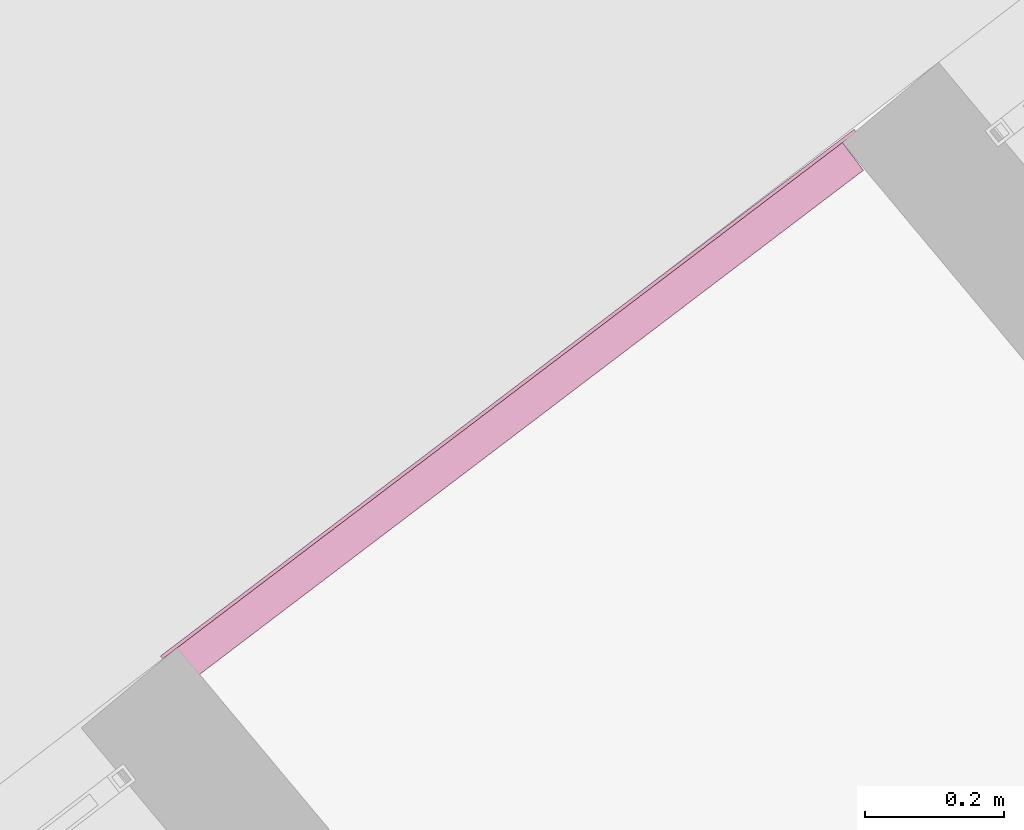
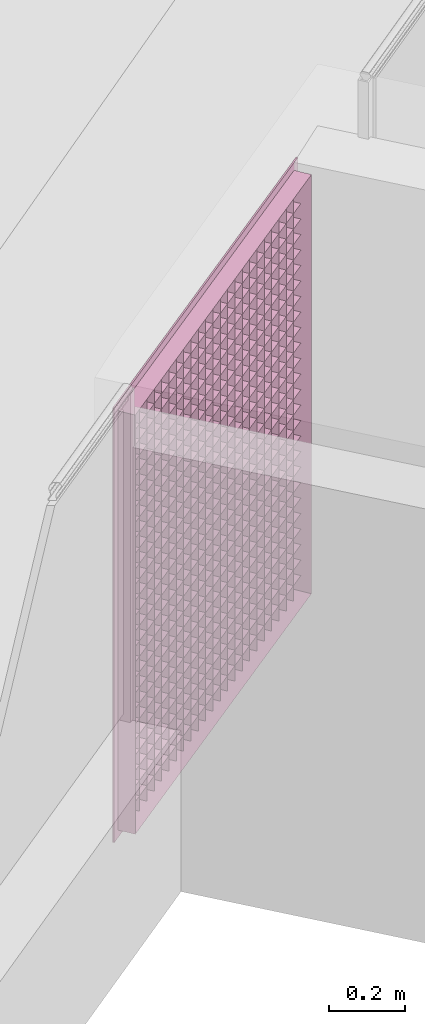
# One storey, part 74 of 75: 1 furniture element.
"""IFC4 building model written with IfcOpenShell, lengths in metres."""

import ifcopenshell
import ifcopenshell.guid

model = None  # the IFC model being written
_history = None  # IfcOwnerHistory: only IFC2X3 demands one
_inside = {}  # id of a spatial element -> (the spatial element, [elements in it])
_under = {}  # id of a project, library or spatial element -> (it, [spatial elements below it])
_declared = {}  # id of a project -> (the project, [libraries it declares])
_typed = {}  # id of a type object -> (the type object, [elements of that type])
_made_of = {}  # id of a material, layer set ... -> (it, [elements and type objects made of it])


def new_model(schema):
    """Start an empty IFC model of exactly this schema.

    Asked for "IFC4X3", IfcOpenShell would pick the latest addendum, in which some entities
    have other attributes; the version numbers below select the first issue.
    IFC2X3 requires an IfcOwnerHistory on every rooted entity: one is made here for all.
    """
    global model, _history
    if schema == "IFC4X3":
        model = ifcopenshell.file(schema_version=(4, 3, 0, 0))
    else:
        model = ifcopenshell.file(schema=schema)
    _inside.clear()
    _under.clear()
    _declared.clear()
    _typed.clear()
    _made_of.clear()
    _history = None
    if model.schema == "IFC2X3":
        org = make("IfcOrganization", Name="unknown")
        user = make(
            "IfcPersonAndOrganization",
            ThePerson=make("IfcPerson", FamilyName="unknown"),
            TheOrganization=org,
        )
        app = make(
            "IfcApplication",
            ApplicationDeveloper=org,
            Version="unknown",
            ApplicationFullName="unknown",
            ApplicationIdentifier="unknown",
        )
        _history = make(
            "IfcOwnerHistory",
            OwningUser=user,
            OwningApplication=app,
            ChangeAction="ADDED",
            CreationDate=0,
        )
    return model


def make(cls, **values):
    """One entity of the class cls with the attributes given. An attribute that is None is left unset."""
    return model.create_entity(
        cls, **{name: value for name, value in values.items() if value is not None}
    )


def entity(cls, *values):
    """Any entity or typed value of the class cls, its attributes in the order of the schema. None: left unset."""
    e = model.create_entity(cls)
    for i, value in enumerate(values):
        if value is not None:
            e[i] = value
    return e


def rooted(cls, **values):
    """An entity with a GlobalId (a new one), such as an element, a storey or a relation."""
    return make(cls, GlobalId=ifcopenshell.guid.new(), OwnerHistory=_history, **values)


def si_unit(unit_type, name, prefix=None):
    """IfcSIUnit, for example si_unit("LENGTHUNIT", "METRE", prefix="MILLI")."""
    return make("IfcSIUnit", UnitType=unit_type, Prefix=prefix, Name=name)


def converted_unit(unit_type, name, factor, base, dimensions=None, offset=None):
    """IfcConversionBasedUnit, such as the inch: factor (a typed value) times the base unit."""
    return make(
        "IfcConversionBasedUnit"
        if offset is None
        else "IfcConversionBasedUnitWithOffset",
        ConversionOffset=offset,
        Dimensions=None
        if dimensions is None
        else entity("IfcDimensionalExponents", *dimensions),
        UnitType=unit_type,
        Name=name,
        ConversionFactor=make(
            "IfcMeasureWithUnit", ValueComponent=factor, UnitComponent=base
        ),
    )


def derived_unit(unit_type, elements):
    """IfcDerivedUnit: a product of units, each with its exponent."""
    return make(
        "IfcDerivedUnit",
        Elements=[
            make("IfcDerivedUnitElement", Unit=unit, Exponent=power)
            for unit, power in elements
        ],
        UnitType=unit_type,
    )


def assignment(units):
    """IfcUnitAssignment: the units of a project."""
    return None if units is None else make("IfcUnitAssignment", Units=units)


def point(xyz):
    """IfcCartesianPoint."""
    return None if xyz is None else make("IfcCartesianPoint", Coordinates=xyz)


def direction(xyz):
    """IfcDirection."""
    return None if xyz is None else make("IfcDirection", DirectionRatios=xyz)


def frame(location, z_axis=None, x_axis=None):
    """IfcAxis2Placement3D, a coordinate frame: its origin and axes. An axis left out is left unset."""
    return make(
        "IfcAxis2Placement3D",
        Location=point(location),
        Axis=direction(z_axis),
        RefDirection=direction(x_axis),
    )


def origin_with_axes():
    """The frame at (0, 0, 0) with the z axis (0, 0, 1) and the x axis (1, 0, 0) written out."""
    return frame((0.0, 0.0, 0.0), z_axis=(0.0, 0.0, 1.0), x_axis=(1.0, 0.0, 0.0))


def place(relative_to, where):
    """IfcLocalPlacement: puts the frame where relative to a parent placement (None: the world)."""
    return make(
        "IfcLocalPlacement", PlacementRelTo=relative_to, RelativePlacement=where
    )


def context(
    kind, dimensions, precision=None, world=None, true_north=None, identifier=None
):
    """IfcGeometricRepresentationContext, for example the 3D "Model" context."""
    return make(
        "IfcGeometricRepresentationContext",
        ContextIdentifier=identifier,
        ContextType=kind,
        CoordinateSpaceDimension=dimensions,
        Precision=precision,
        WorldCoordinateSystem=world,
        TrueNorth=true_north,
    )


def subcontext(parent, identifier, kind, view, scale=None):
    """IfcGeometricRepresentationSubContext, for example "Body" below "Model"."""
    return make(
        "IfcGeometricRepresentationSubContext",
        ContextIdentifier=identifier,
        ContextType=kind,
        ParentContext=parent,
        TargetScale=scale,
        TargetView=view,
    )


def project(units=None, contexts=None):
    """IfcProject with its units and contexts."""
    return rooted(
        "IfcProject",
        Name="project",
        RepresentationContexts=contexts,
        UnitsInContext=assignment(units),
    )


def spatial(cls, under=None, at=None, **own):
    """A site, building, storey or space (cls), placed at a placement, below another one or the project."""
    s = rooted(cls, ObjectPlacement=at, **own)
    if under is not None:
        _under.setdefault(under.id(), (under, []))[1].append(s)
    return s


def point_list(points):
    """IfcCartesianPointList2D or 3D."""
    cls = (
        "IfcCartesianPointList2D" if len(points[0]) == 2 else "IfcCartesianPointList3D"
    )
    return make(cls, CoordList=points)


def polygons(points, faces, closed=None, point_numbers=None):
    """IfcPolygonalFaceSet: a face is its outer loop, then its inner loops; points numbered from 1."""
    made = []
    for loops in faces:
        if len(loops) == 1:
            made.append(make("IfcIndexedPolygonalFace", CoordIndex=loops[0]))
        else:
            made.append(
                make(
                    "IfcIndexedPolygonalFaceWithVoids",
                    CoordIndex=loops[0],
                    InnerCoordIndices=loops[1:],
                )
            )
    return make(
        "IfcPolygonalFaceSet",
        Coordinates=point_list(points),
        Closed=closed,
        Faces=made,
        PnIndex=point_numbers,
    )


def shape(context_of_items, identifier, shape_type, items):
    """IfcShapeRepresentation: the items that make up one representation, for example the "Body"."""
    return make(
        "IfcShapeRepresentation",
        ContextOfItems=context_of_items,
        RepresentationIdentifier=identifier,
        RepresentationType=shape_type,
        Items=items,
    )


def made_of(thing, what):
    """Note that an element or type object is made of a material, layer set ...; save() writes the relation."""
    if what is not None:
        _made_of.setdefault(what.id(), (what, []))[1].append(thing)
    return thing


def type_object(cls, material=None, **own):
    """A type object (cls), such as IfcWallType, which elements share."""
    return made_of(rooted(cls, **own), material)


def element(
    cls,
    number,
    at=None,
    inside=None,
    cuts=None,
    type_object=None,
    material=None,
    context=None,
    identifier="Body",
    shape_type=None,
    held_by="IfcProductDefinitionShape",
    body=None,
    shapes=None,
    **own,
):
    """One element of the class cls, such as IfcWall. Its Tag is "e" and its number.

    at: its placement. inside: the storey or other place that contains it. cuts: it is an
    opening in that element (IfcRelVoidsElement). A single representation is given by context,
    identifier, shape_type and body (its items); several are given by shapes. held_by: the class
    of the entity that holds the representations. save() writes the other relations.
    """
    e = rooted(cls, Tag="e%d" % number, ObjectPlacement=at, **own)
    if body is not None:
        shapes = [shape(context, identifier, shape_type, body)]
    if shapes is not None:
        e.Representation = make(held_by, Representations=shapes)
    if inside is not None:
        _inside.setdefault(inside.id(), (inside, []))[1].append(e)
    if cuts is not None:
        rooted(
            "IfcRelVoidsElement", RelatingBuildingElement=cuts, RelatedOpeningElement=e
        )
    if type_object is not None:
        _typed.setdefault(type_object.id(), (type_object, []))[1].append(e)
    return made_of(e, material)


def aggregate(whole, parts):
    """IfcRelAggregates: a whole, such as a stair, and the parts it consists of."""
    return rooted("IfcRelAggregates", RelatingObject=whole, RelatedObjects=parts)


def save(model, path):
    """Write the relations noted so far, then the file.

    IfcRelAggregates (storeys below a building ...), IfcRelContainedInSpatialStructure (elements
    in a storey), IfcRelDefinesByType, IfcRelAssociatesMaterial and IfcRelDeclares: one each for
    every whole, place, type object, material and project.
    """
    for whole, parts in _under.values():
        aggregate(whole, parts)
    for where, things in _inside.values():
        rooted(
            "IfcRelContainedInSpatialStructure",
            RelatedElements=things,
            RelatingStructure=where,
        )
    for kind, things in _typed.values():
        rooted("IfcRelDefinesByType", RelatedObjects=things, RelatingType=kind)
    for what, things in _made_of.values():
        rooted("IfcRelAssociatesMaterial", RelatedObjects=things, RelatingMaterial=what)
    for by, libraries in _declared.values():
        rooted("IfcRelDeclares", RelatingContext=by, RelatedDefinitions=libraries)
    model.write(path)


model = new_model("IFC4")

# Units and contexts
model_context = context("Model", 3, precision=1e-05, world=origin_with_axes(), true_north=direction((0.0, 1.0)))
body_context = subcontext(model_context, "Body", "Model", "MODEL_VIEW")
ifc_project = project(units=[si_unit("LENGTHUNIT", "METRE"), si_unit("AREAUNIT", "SQUARE_METRE"), si_unit("VOLUMEUNIT", "CUBIC_METRE"), converted_unit("PLANEANGLEUNIT", "DEGREE", entity("IfcPlaneAngleMeasure", 0.0174532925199), si_unit("PLANEANGLEUNIT", "RADIAN"), dimensions=[0, 0, 0, 0, 0, 0, 0]), converted_unit("TIMEUNIT", "Year", entity("IfcTimeMeasure", 31556926.0), si_unit("TIMEUNIT", "SECOND"), dimensions=[0, 0, 1, 0, 0, 0, 0]), si_unit("MASSUNIT", "GRAM", prefix="KILO"), si_unit("THERMODYNAMICTEMPERATUREUNIT", "DEGREE_CELSIUS"), si_unit("LUMINOUSINTENSITYUNIT", "LUMEN"), si_unit("ENERGYUNIT", "JOULE", prefix="MEGA"), derived_unit("THERMALCONDUCTANCEUNIT", [(si_unit("POWERUNIT", "WATT"), 1), (si_unit("LENGTHUNIT", "METRE"), -1), (si_unit("THERMODYNAMICTEMPERATUREUNIT", "KELVIN"), -1)]), derived_unit("SPECIFICHEATCAPACITYUNIT", [(si_unit("ENERGYUNIT", "JOULE"), 1), (si_unit("MASSUNIT", "GRAM", prefix="KILO"), -1), (si_unit("THERMODYNAMICTEMPERATUREUNIT", "KELVIN"), -1)]), derived_unit("MASSDENSITYUNIT", [(si_unit("MASSUNIT", "GRAM", prefix="KILO"), 1), (si_unit("VOLUMEUNIT", "CUBIC_METRE"), -1)])], contexts=[model_context])

# Site, building, storey
site_placement = place(None, frame((-0.00153261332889, -0.00661245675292, 0.0), z_axis=(0.0, 0.0, 1.0), x_axis=(1.0, 0.0, 0.0)))
site = spatial("IfcSite", under=ifc_project, at=site_placement, Name="Gelände", CompositionType="ELEMENT")
building_placement = place(site_placement, origin_with_axes())
building = spatial("IfcBuilding", under=site, at=building_placement, Name="Gebäude", CompositionType="ELEMENT")
storey_placement = place(building_placement, frame((0.0, 0.0, -0.22), z_axis=(0.0, 0.0, 1.0), x_axis=(1.0, 0.0, 0.0)))
storey = spatial("IfcBuildingStorey", under=building, at=storey_placement, Name="EG", CompositionType="ELEMENT", Elevation=-0.22)

# Furniture
furniture_type = type_object("IfcFurnitureType", Name="Seitenwand-Gitter 26", AssemblyPlace="NOTDEFINED", PredefinedType="NOTDEFINED")
furniture_placement = place(storey_placement, frame((-11.5420656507, 24.0290484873, 0.698614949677), z_axis=(0.0, 0.0, 1.0), x_axis=(-0.796395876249, -0.604775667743, 0.0)))
element("IfcFurniture", 1, at=furniture_placement, inside=storey, type_object=furniture_type, Name="Objekt-0002", PredefinedType="NOTDEFINED", context=body_context, shape_type="Tessellation", body=[
    polygons([(0.626, -0.005, -0.701), (-0.626, -0.005, -0.701), (-0.626, 0.0, -0.701), (0.626, 0.0, -0.701), (0.626, -0.005, 0.701), (-0.626, -0.005, 0.701), (0.601, -0.005, -0.676), (-0.601, -0.005, -0.676), (-0.601, -0.005, 0.676), (0.601, -0.005, 0.676), (-0.626, 0.0, 0.701), (0.626, 0.0, 0.701), (0.601, 0.0, -0.676), (0.601, 0.0, 0.676), (-0.601, 0.0, 0.676), (-0.601, 0.0, -0.676)], [[[1, 2, 3, 4]], [[1, 5, 6, 2], [7, 8, 9, 10]], [[2, 6, 11, 3]], [[4, 3, 11, 12], [13, 14, 15, 16]], [[5, 1, 4, 12]], [[6, 5, 12, 11]], [[8, 7, 13, 16]], [[9, 8, 16, 15]], [[10, 9, 15, 14]], [[7, 10, 14, 13]]], closed=True),
    polygons([(-0.6, -0.005, -0.675), (0.6, -0.005, -0.675), (0.6, 0.02, -0.675), (-0.6, 0.02, -0.675)], [[[1, 2, 3, 4]]], closed=False),
    polygons([(-0.6, -0.005, -0.625), (0.6, -0.005, -0.625), (0.6, 0.02, -0.625), (-0.6, 0.02, -0.625)], [[[1, 2, 3, 4]]], closed=False),
    polygons([(-0.6, -0.005, -0.575), (0.6, -0.005, -0.575), (0.6, 0.02, -0.575), (-0.6, 0.02, -0.575)], [[[1, 2, 3, 4]]], closed=False),
    polygons([(-0.6, -0.005, -0.525), (0.6, -0.005, -0.525), (0.6, 0.02, -0.525), (-0.6, 0.02, -0.525)], [[[1, 2, 3, 4]]], closed=False),
    polygons([(-0.6, -0.005, -0.475), (0.6, -0.005, -0.475), (0.6, 0.02, -0.475), (-0.6, 0.02, -0.475)], [[[1, 2, 3, 4]]], closed=False),
    polygons([(-0.6, -0.005, -0.425), (0.6, -0.005, -0.425), (0.6, 0.02, -0.425), (-0.6, 0.02, -0.425)], [[[1, 2, 3, 4]]], closed=False),
    polygons([(-0.6, -0.005, -0.375), (0.6, -0.005, -0.375), (0.6, 0.02, -0.375), (-0.6, 0.02, -0.375)], [[[1, 2, 3, 4]]], closed=False),
    polygons([(-0.6, -0.005, -0.325), (0.6, -0.005, -0.325), (0.6, 0.02, -0.325), (-0.6, 0.02, -0.325)], [[[1, 2, 3, 4]]], closed=False),
    polygons([(-0.6, -0.005, -0.275), (0.6, -0.005, -0.275), (0.6, 0.02, -0.275), (-0.6, 0.02, -0.275)], [[[1, 2, 3, 4]]], closed=False),
    polygons([(-0.6, -0.005, -0.225), (0.6, -0.005, -0.225), (0.6, 0.02, -0.225), (-0.6, 0.02, -0.225)], [[[1, 2, 3, 4]]], closed=False),
    polygons([(-0.6, -0.005, -0.175), (0.6, -0.005, -0.175), (0.6, 0.02, -0.175), (-0.6, 0.02, -0.175)], [[[1, 2, 3, 4]]], closed=False),
    polygons([(-0.6, -0.005, -0.125), (0.6, -0.005, -0.125), (0.6, 0.02, -0.125), (-0.6, 0.02, -0.125)], [[[1, 2, 3, 4]]], closed=False),
    polygons([(-0.6, -0.005, -0.075), (0.6, -0.005, -0.075), (0.6, 0.02, -0.075), (-0.6, 0.02, -0.075)], [[[1, 2, 3, 4]]], closed=False),
    polygons([(-0.6, -0.005, -0.025), (0.6, -0.005, -0.025), (0.6, 0.02, -0.025), (-0.6, 0.02, -0.025)], [[[1, 2, 3, 4]]], closed=False),
    polygons([(-0.6, -0.005, 0.025), (0.6, -0.005, 0.025), (0.6, 0.02, 0.025), (-0.6, 0.02, 0.025)], [[[1, 2, 3, 4]]], closed=False),
    polygons([(-0.6, -0.005, 0.075), (0.6, -0.005, 0.075), (0.6, 0.02, 0.075), (-0.6, 0.02, 0.075)], [[[1, 2, 3, 4]]], closed=False),
    polygons([(-0.6, -0.005, 0.125), (0.6, -0.005, 0.125), (0.6, 0.02, 0.125), (-0.6, 0.02, 0.125)], [[[1, 2, 3, 4]]], closed=False),
    polygons([(-0.6, -0.005, 0.175), (0.6, -0.005, 0.175), (0.6, 0.02, 0.175), (-0.6, 0.02, 0.175)], [[[1, 2, 3, 4]]], closed=False),
    polygons([(-0.6, -0.005, 0.225), (0.6, -0.005, 0.225), (0.6, 0.02, 0.225), (-0.6, 0.02, 0.225)], [[[1, 2, 3, 4]]], closed=False),
    polygons([(-0.6, -0.005, 0.275), (0.6, -0.005, 0.275), (0.6, 0.02, 0.275), (-0.6, 0.02, 0.275)], [[[1, 2, 3, 4]]], closed=False),
    polygons([(-0.6, -0.005, 0.325), (0.6, -0.005, 0.325), (0.6, 0.02, 0.325), (-0.6, 0.02, 0.325)], [[[1, 2, 3, 4]]], closed=False),
    polygons([(-0.6, -0.005, 0.375), (0.6, -0.005, 0.375), (0.6, 0.02, 0.375), (-0.6, 0.02, 0.375)], [[[1, 2, 3, 4]]], closed=False),
    polygons([(-0.6, -0.005, 0.425), (0.6, -0.005, 0.425), (0.6, 0.02, 0.425), (-0.6, 0.02, 0.425)], [[[1, 2, 3, 4]]], closed=False),
    polygons([(-0.6, -0.005, 0.475), (0.6, -0.005, 0.475), (0.6, 0.02, 0.475), (-0.6, 0.02, 0.475)], [[[1, 2, 3, 4]]], closed=False),
    polygons([(-0.6, -0.005, 0.525), (0.6, -0.005, 0.525), (0.6, 0.02, 0.525), (-0.6, 0.02, 0.525)], [[[1, 2, 3, 4]]], closed=False),
    polygons([(-0.6, -0.005, 0.575), (0.6, -0.005, 0.575), (0.6, 0.02, 0.575), (-0.6, 0.02, 0.575)], [[[1, 2, 3, 4]]], closed=False),
    polygons([(-0.6, -0.005, 0.625), (0.6, -0.005, 0.625), (0.6, 0.02, 0.625), (-0.6, 0.02, 0.625)], [[[1, 2, 3, 4]]], closed=False),
    polygons([(-0.6, -0.005, 0.675), (0.6, -0.005, 0.675), (0.6, 0.02, 0.675), (-0.6, 0.02, 0.675)], [[[1, 2, 3, 4]]], closed=False),
    polygons([(0.6, -0.005, 0.675), (0.6, -0.005, -0.675), (0.6, 0.02, -0.675), (0.6, 0.02, 0.675)], [[[1, 2, 3, 4]]], closed=False),
    polygons([(0.55, -0.005, 0.675), (0.55, -0.005, -0.675), (0.55, 0.02, -0.675), (0.55, 0.02, 0.675)], [[[1, 2, 3, 4]]], closed=False),
    polygons([(0.5, -0.005, 0.675), (0.5, -0.005, -0.675), (0.5, 0.02, -0.675), (0.5, 0.02, 0.675)], [[[1, 2, 3, 4]]], closed=False),
    polygons([(0.45, -0.005, 0.675), (0.45, -0.005, -0.675), (0.45, 0.02, -0.675), (0.45, 0.02, 0.675)], [[[1, 2, 3, 4]]], closed=False),
    polygons([(0.4, -0.005, 0.675), (0.4, -0.005, -0.675), (0.4, 0.02, -0.675), (0.4, 0.02, 0.675)], [[[1, 2, 3, 4]]], closed=False),
    polygons([(0.35, -0.005, 0.675), (0.35, -0.005, -0.675), (0.35, 0.02, -0.675), (0.35, 0.02, 0.675)], [[[1, 2, 3, 4]]], closed=False),
    polygons([(0.3, -0.005, 0.675), (0.3, -0.005, -0.675), (0.3, 0.02, -0.675), (0.3, 0.02, 0.675)], [[[1, 2, 3, 4]]], closed=False),
    polygons([(0.25, -0.005, 0.675), (0.25, -0.005, -0.675), (0.25, 0.02, -0.675), (0.25, 0.02, 0.675)], [[[1, 2, 3, 4]]], closed=False),
    polygons([(0.2, -0.005, 0.675), (0.2, -0.005, -0.675), (0.2, 0.02, -0.675), (0.2, 0.02, 0.675)], [[[1, 2, 3, 4]]], closed=False),
    polygons([(0.15, -0.005, 0.675), (0.15, -0.005, -0.675), (0.15, 0.02, -0.675), (0.15, 0.02, 0.675)], [[[1, 2, 3, 4]]], closed=False),
    polygons([(0.1, -0.005, 0.675), (0.1, -0.005, -0.675), (0.1, 0.02, -0.675), (0.1, 0.02, 0.675)], [[[1, 2, 3, 4]]], closed=False),
    polygons([(0.05, -0.005, 0.675), (0.05, -0.005, -0.675), (0.05, 0.02, -0.675), (0.05, 0.02, 0.675)], [[[1, 2, 3, 4]]], closed=False),
    polygons([(0.0, -0.005, 0.675), (0.0, -0.005, -0.675), (0.0, 0.02, -0.675), (0.0, 0.02, 0.675)], [[[1, 2, 3, 4]]], closed=False),
    polygons([(-0.05, -0.005, 0.675), (-0.05, -0.005, -0.675), (-0.05, 0.02, -0.675), (-0.05, 0.02, 0.675)], [[[1, 2, 3, 4]]], closed=False),
    polygons([(-0.1, -0.005, 0.675), (-0.1, -0.005, -0.675), (-0.1, 0.02, -0.675), (-0.1, 0.02, 0.675)], [[[1, 2, 3, 4]]], closed=False),
    polygons([(-0.15, -0.005, 0.675), (-0.15, -0.005, -0.675), (-0.15, 0.02, -0.675), (-0.15, 0.02, 0.675)], [[[1, 2, 3, 4]]], closed=False),
    polygons([(-0.2, -0.005, 0.675), (-0.2, -0.005, -0.675), (-0.2, 0.02, -0.675), (-0.2, 0.02, 0.675)], [[[1, 2, 3, 4]]], closed=False),
    polygons([(-0.25, -0.005, 0.675), (-0.25, -0.005, -0.675), (-0.25, 0.02, -0.675), (-0.25, 0.02, 0.675)], [[[1, 2, 3, 4]]], closed=False),
    polygons([(-0.3, -0.005, 0.675), (-0.3, -0.005, -0.675), (-0.3, 0.02, -0.675), (-0.3, 0.02, 0.675)], [[[1, 2, 3, 4]]], closed=False),
    polygons([(-0.35, -0.005, 0.675), (-0.35, -0.005, -0.675), (-0.35, 0.02, -0.675), (-0.35, 0.02, 0.675)], [[[1, 2, 3, 4]]], closed=False),
    polygons([(-0.4, -0.005, 0.675), (-0.4, -0.005, -0.675), (-0.4, 0.02, -0.675), (-0.4, 0.02, 0.675)], [[[1, 2, 3, 4]]], closed=False),
    polygons([(-0.45, -0.005, 0.675), (-0.45, -0.005, -0.675), (-0.45, 0.02, -0.675), (-0.45, 0.02, 0.675)], [[[1, 2, 3, 4]]], closed=False),
    polygons([(-0.5, -0.005, 0.675), (-0.5, -0.005, -0.675), (-0.5, 0.02, -0.675), (-0.5, 0.02, 0.675)], [[[1, 2, 3, 4]]], closed=False),
    polygons([(-0.55, -0.005, 0.675), (-0.55, -0.005, -0.675), (-0.55, 0.02, -0.675), (-0.55, 0.02, 0.675)], [[[1, 2, 3, 4]]], closed=False),
    polygons([(-0.6, -0.005, 0.675), (-0.6, -0.005, -0.675), (-0.6, 0.02, -0.675), (-0.6, 0.02, 0.675)], [[[1, 2, 3, 4]]], closed=False),
    polygons([(-0.601, 0.0, -0.676), (-0.601, 0.0, 0.676), (-0.601, 0.05, 0.676), (-0.601, 0.05, -0.676), (0.601, 0.0, 0.676), (0.601, 0.05, 0.676), (0.601, 0.0, -0.676), (0.601, 0.05, -0.676)], [[[1, 2, 3, 4]], [[2, 5, 6, 3]], [[7, 1, 4, 8]], [[5, 7, 8, 6]]], closed=False),
])

save(model, "model.ifc")
